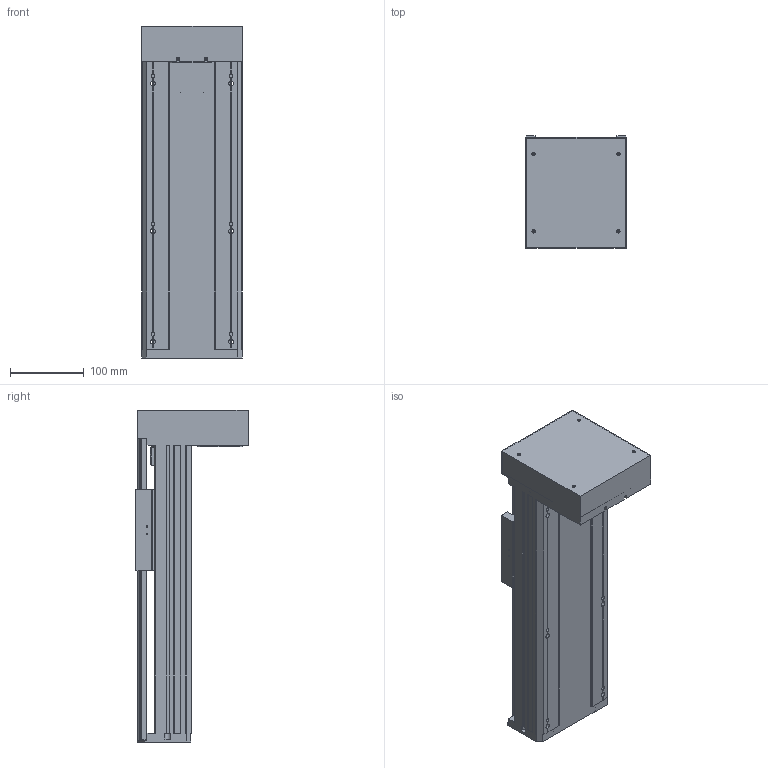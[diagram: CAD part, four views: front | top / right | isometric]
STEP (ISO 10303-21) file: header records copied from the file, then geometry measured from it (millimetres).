
FILE_DESCRIPTION(/* description */ (''),/* implementation_level */ '2;1');
FILE_NAME(/* name */ 'TKA136-FD-200_asm1.stp',/* time_stamp */ '2016-05-07T09:12:54+08:00',/* author */ (''),/* organization */ (''),/* preprocessor_version */ 'ST-DEVELOPER v15',/* originating_system */ 'SIEMENS PLM Software NX 8.5',/* authorisation */ '');
FILE_SCHEMA (('AUTOMOTIVE_DESIGN { 1 0 10303 214 3 1 1 1 }'));
Length unit declared in the file: millimetre
Products named in the file (3): 100-02; 100-01; TKA136-FD-200_asm1
Assembly tree (2 placements, depth 2):
  TKA136-FD-200_asm1
    100-01
    100-02
Bounding box: 136 x 152 x 450 mm (x, y, z)
Volume: 1701082.9 mm3; surface area: 658119.4 mm2
Topology: 2 solids, 13 shells, 896 faces, 2445 edges, 1573 vertices
Faces by surface type: plane 418, cylinder 413, cone 65
Full cylindrical faces by diameter (mm): 3 x2, 3.3 x13, 4 x4, 4.2 x8, 4.5 x14, 5 x6, 5.5 x26, 6.6 x10, 8 x12, 10 x9, 10.5 x6, 11 x4, 11.6 x1, 12 x9, 15 x3, 16 x5, 17 x1, 24 x5, 26 x1, 28 x1, 46 x1, 50 x2
Entity records: 29466 total; most frequent: CARTESIAN_POINT 7406, DIRECTION 4660, ORIENTED_EDGE 4310, EDGE_CURVE 2155, AXIS2_PLACEMENT_3D 1759, VERTEX_POINT 1496, EDGE_LOOP 1256, LINE 1142
